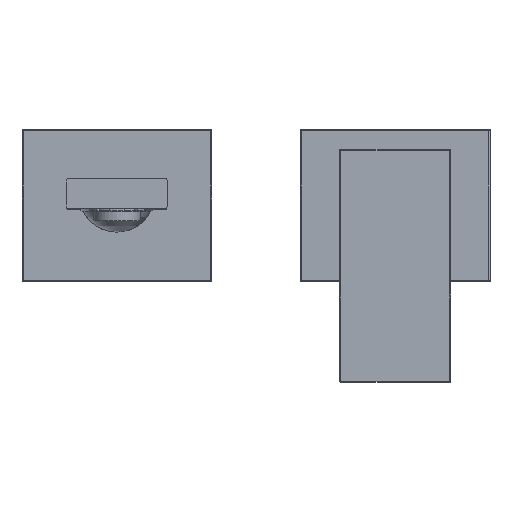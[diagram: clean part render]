
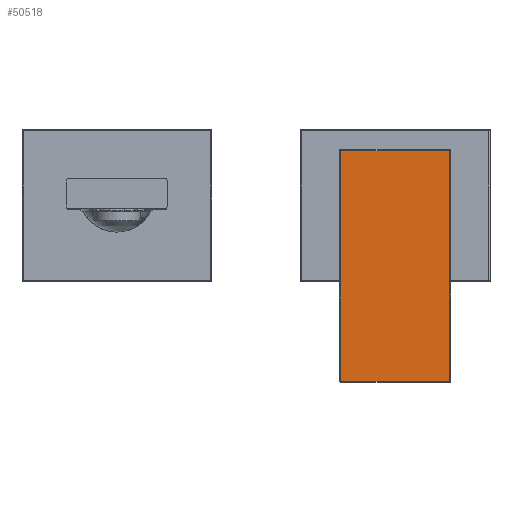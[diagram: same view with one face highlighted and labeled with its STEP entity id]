
A CAD part, top view. The second image highlights one B-rep face of the part: STEP entity #50518.
In plain terms, the highlighted planar face has unit normal (0, 0, 1).
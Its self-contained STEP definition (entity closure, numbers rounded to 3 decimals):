
#39503=DIRECTION('',(1.,0.,0.));
#39504=VECTOR('',#39503,43.);
#39505=CARTESIAN_POINT('',(-23.5,-69.5,108.1));
#39506=LINE('',#39505,#39504);
#39507=DIRECTION('',(0.,-1.,0.));
#39508=VECTOR('',#39507,91.);
#39509=CARTESIAN_POINT('',(-23.5,21.5,108.1));
#39510=LINE('',#39509,#39508);
#39511=DIRECTION('',(-1.,0.,0.));
#39512=VECTOR('',#39511,43.);
#39513=CARTESIAN_POINT('',(19.5,21.5,108.1));
#39514=LINE('',#39513,#39512);
#39515=DIRECTION('',(0.,1.,0.));
#39516=VECTOR('',#39515,91.);
#39517=CARTESIAN_POINT('',(19.5,-69.5,108.1));
#39518=LINE('',#39517,#39516);
#49631=CARTESIAN_POINT('',(-23.5,-69.5,108.1));
#49632=CARTESIAN_POINT('',(19.5,-69.5,108.1));
#49633=VERTEX_POINT('',#49631);
#49634=VERTEX_POINT('',#49632);
#49639=CARTESIAN_POINT('',(19.5,21.5,108.1));
#49640=VERTEX_POINT('',#49639);
#49645=CARTESIAN_POINT('',(-23.5,21.5,108.1));
#49646=VERTEX_POINT('',#49645);
#50504=CARTESIAN_POINT('',(-2.,0.,108.1));
#50505=DIRECTION('',(0.,0.,1.));
#50506=DIRECTION('',(1.,0.,0.));
#50507=AXIS2_PLACEMENT_3D('',#50504,#50505,#50506);
#50508=PLANE('',#50507);
#50510=ORIENTED_EDGE('',*,*,#50509,.F.);
#50512=ORIENTED_EDGE('',*,*,#50511,.F.);
#50513=ORIENTED_EDGE('',*,*,#50494,.F.);
#50515=ORIENTED_EDGE('',*,*,#50514,.F.);
#50516=EDGE_LOOP('',(#50510,#50512,#50513,#50515));
#50517=FACE_OUTER_BOUND('',#50516,.F.);
#50518=ADVANCED_FACE('',(#50517),#50508,.T.);
#50494=EDGE_CURVE('',#49640,#49646,#39514,.T.);
#50509=EDGE_CURVE('',#49633,#49634,#39506,.T.);
#50511=EDGE_CURVE('',#49646,#49633,#39510,.T.);
#50514=EDGE_CURVE('',#49634,#49640,#39518,.T.);
